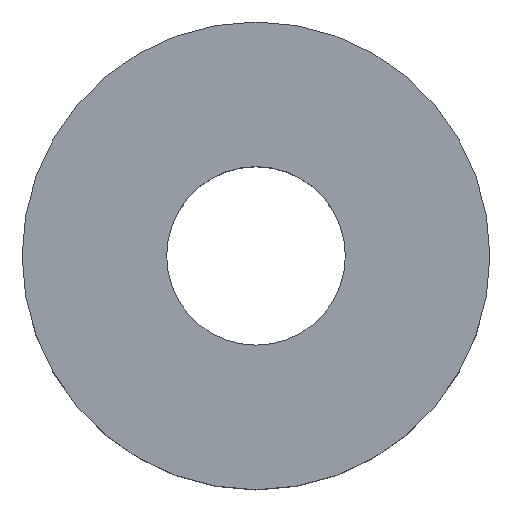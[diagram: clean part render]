
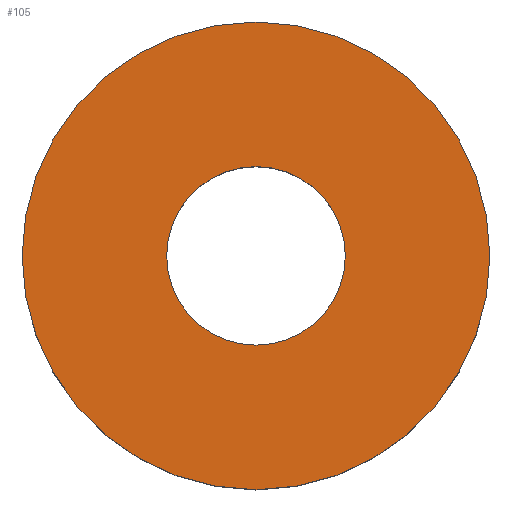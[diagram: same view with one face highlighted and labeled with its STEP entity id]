
A CAD part, top view. The second image highlights one B-rep face of the part: STEP entity #105.
In plain terms, the highlighted planar face has unit normal (0, 0, 1).
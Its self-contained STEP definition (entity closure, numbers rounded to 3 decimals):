
#21 = EDGE_CURVE('',#22,#22,#24,.T.);
#22 = VERTEX_POINT('',#23);
#23 = CARTESIAN_POINT('',(11.,0.,7.));
#24 = SURFACE_CURVE('',#25,(#30,#42),.PCURVE_S1.);
#25 = CIRCLE('',#26,11.);
#26 = AXIS2_PLACEMENT_3D('',#27,#28,#29);
#27 = CARTESIAN_POINT('',(0.,0.,7.));
#28 = DIRECTION('',(0.,0.,1.));
#29 = DIRECTION('',(1.,0.,-0.));
#30 = PCURVE('',#31,#36);
#31 = CYLINDRICAL_SURFACE('',#32,11.);
#32 = AXIS2_PLACEMENT_3D('',#33,#34,#35);
#33 = CARTESIAN_POINT('',(0.,0.,0.));
#34 = DIRECTION('',(0.,0.,1.));
#35 = DIRECTION('',(1.,0.,-0.));
#36 = DEFINITIONAL_REPRESENTATION('',(#37),#41);
#37 = LINE('',#38,#39);
#38 = CARTESIAN_POINT('',(0.,7.));
#39 = VECTOR('',#40,1.);
#40 = DIRECTION('',(1.,0.));
#41 = ( GEOMETRIC_REPRESENTATION_CONTEXT(2) 
PARAMETRIC_REPRESENTATION_CONTEXT() REPRESENTATION_CONTEXT('2D SPACE',''
  ) );
#42 = PCURVE('',#43,#48);
#43 = PLANE('',#44);
#44 = AXIS2_PLACEMENT_3D('',#45,#46,#47);
#45 = CARTESIAN_POINT('',(0.,0.,7.));
#46 = DIRECTION('',(0.,0.,1.));
#47 = DIRECTION('',(1.,0.,-0.));
#48 = DEFINITIONAL_REPRESENTATION('',(#49),#53);
#49 = CIRCLE('',#50,11.);
#50 = AXIS2_PLACEMENT_2D('',#51,#52);
#51 = CARTESIAN_POINT('',(0.,0.));
#52 = DIRECTION('',(1.,0.));
#53 = ( GEOMETRIC_REPRESENTATION_CONTEXT(2) 
PARAMETRIC_REPRESENTATION_CONTEXT() REPRESENTATION_CONTEXT('2D SPACE',''
  ) );
#105 = ADVANCED_FACE('',(#106,#109),#43,.T.);
#106 = FACE_BOUND('',#107,.T.);
#107 = EDGE_LOOP('',(#108));
#108 = ORIENTED_EDGE('',*,*,#21,.T.);
#109 = FACE_BOUND('',#110,.T.);
#110 = EDGE_LOOP('',(#111));
#111 = ORIENTED_EDGE('',*,*,#112,.F.);
#112 = EDGE_CURVE('',#113,#113,#115,.T.);
#113 = VERTEX_POINT('',#114);
#114 = CARTESIAN_POINT('',(4.2,0.,7.));
#115 = SURFACE_CURVE('',#116,(#121,#128),.PCURVE_S1.);
#116 = CIRCLE('',#117,4.2);
#117 = AXIS2_PLACEMENT_3D('',#118,#119,#120);
#118 = CARTESIAN_POINT('',(0.,0.,7.));
#119 = DIRECTION('',(0.,0.,1.));
#120 = DIRECTION('',(1.,0.,-0.));
#121 = PCURVE('',#43,#122);
#122 = DEFINITIONAL_REPRESENTATION('',(#123),#127);
#123 = CIRCLE('',#124,4.2);
#124 = AXIS2_PLACEMENT_2D('',#125,#126);
#125 = CARTESIAN_POINT('',(0.,0.));
#126 = DIRECTION('',(1.,0.));
#127 = ( GEOMETRIC_REPRESENTATION_CONTEXT(2) 
PARAMETRIC_REPRESENTATION_CONTEXT() REPRESENTATION_CONTEXT('2D SPACE',''
  ) );
#128 = PCURVE('',#129,#134);
#129 = CYLINDRICAL_SURFACE('',#130,4.2);
#130 = AXIS2_PLACEMENT_3D('',#131,#132,#133);
#131 = CARTESIAN_POINT('',(0.,0.,-1.));
#132 = DIRECTION('',(0.,0.,1.));
#133 = DIRECTION('',(1.,0.,-0.));
#134 = DEFINITIONAL_REPRESENTATION('',(#135),#139);
#135 = LINE('',#136,#137);
#136 = CARTESIAN_POINT('',(0.,8.));
#137 = VECTOR('',#138,1.);
#138 = DIRECTION('',(1.,0.));
#139 = ( GEOMETRIC_REPRESENTATION_CONTEXT(2) 
PARAMETRIC_REPRESENTATION_CONTEXT() REPRESENTATION_CONTEXT('2D SPACE',''
  ) );
